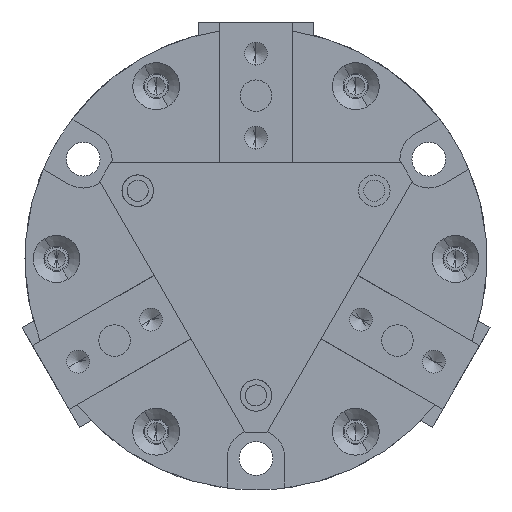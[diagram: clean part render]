
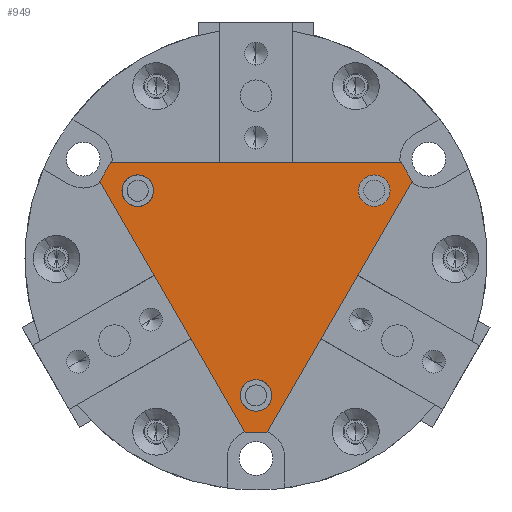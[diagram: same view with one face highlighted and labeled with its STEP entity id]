
A CAD part, front view. The second image highlights one B-rep face of the part: STEP entity #949.
In plain terms, the highlighted planar face has unit normal (0, -1, 0).
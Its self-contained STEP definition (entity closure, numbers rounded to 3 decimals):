
#198 = CARTESIAN_POINT ( 'NONE',  ( -1.643, 0., -26.314 ) ) ;
#441 = ORIENTED_EDGE ( 'NONE', *, *, #3750, .T. ) ;
#483 = CARTESIAN_POINT ( 'NONE',  ( 21.968, 0., 14.58 ) ) ;
#485 = LINE ( 'NONE', #2146, #2170 ) ;
#535 = LINE ( 'NONE', #5185, #5176 ) ;
#671 = LINE ( 'NONE', #198, #7201 ) ;
#737 = CARTESIAN_POINT ( 'NONE',  ( -17.873, 0., 12.706 ) ) ;
#745 = VERTEX_POINT ( 'NONE', #6564 ) ;
#825 = EDGE_CURVE ( 'NONE', #4396, #6357, #5057, .T. ) ;
#849 = DIRECTION ( 'NONE',  ( 0., 1., 0. ) ) ;
#902 = ORIENTED_EDGE ( 'NONE', *, *, #1172, .T. ) ;
#949 = ADVANCED_FACE ( 'NONE', ( #1309, #7619, #7431, #4063 ), #4278, .T. ) ;
#964 = CARTESIAN_POINT ( 'NONE',  ( 0., 0., -20.637 ) ) ;
#1020 = CARTESIAN_POINT ( 'NONE',  ( 1.643, 0., -26.314 ) ) ;
#1107 = DIRECTION ( 'NONE',  ( 0., 1., 0. ) ) ;
#1130 = VERTEX_POINT ( 'NONE', #2877 ) ;
#1172 = EDGE_CURVE ( 'NONE', #1130, #1326, #1211, .T. ) ;
#1189 = DIRECTION ( 'NONE',  ( -0.5, 0., 0.866 ) ) ;
#1211 = CIRCLE ( 'NONE', #7683, 2.388 ) ;
#1309 = FACE_BOUND ( 'NONE', #6924, .T. ) ;
#1326 = VERTEX_POINT ( 'NONE', #8132 ) ;
#1452 = ORIENTED_EDGE ( 'NONE', *, *, #5219, .F. ) ;
#1468 = AXIS2_PLACEMENT_3D ( 'NONE', #4879, #1107, #5514 ) ;
#1528 = CARTESIAN_POINT ( 'NONE',  ( -21.968, 0., 14.58 ) ) ;
#1598 = DIRECTION ( 'NONE',  ( 0., 0., 1. ) ) ;
#1718 = CARTESIAN_POINT ( 'NONE',  ( 23.61, 0., 11.735 ) ) ;
#1778 = DIRECTION ( 'NONE',  ( 0., 0., -1. ) ) ;
#2031 = VECTOR ( 'NONE', #5303, 1000. ) ;
#2047 = DIRECTION ( 'NONE',  ( 0.5, 0., -0.866 ) ) ;
#2057 = VECTOR ( 'NONE', #1189, 1000. ) ;
#2146 = CARTESIAN_POINT ( 'NONE',  ( -23.61, 0., 11.735 ) ) ;
#2170 = VECTOR ( 'NONE', #5915, 1000. ) ;
#2244 = DIRECTION ( 'NONE',  ( 0., 1., 0. ) ) ;
#2255 = LINE ( 'NONE', #3702, #2057 ) ;
#2336 = AXIS2_PLACEMENT_3D ( 'NONE', #3027, #5549, #1778 ) ;
#2345 = DIRECTION ( 'NONE',  ( -0.5, 0., -0.866 ) ) ;
#2476 = ORIENTED_EDGE ( 'NONE', *, *, #4862, .F. ) ;
#2504 = VERTEX_POINT ( 'NONE', #6042 ) ;
#2521 = DIRECTION ( 'NONE',  ( 0., 1., 0. ) ) ;
#2630 = ORIENTED_EDGE ( 'NONE', *, *, #6585, .T. ) ;
#2780 = ORIENTED_EDGE ( 'NONE', *, *, #825, .T. ) ;
#2877 = CARTESIAN_POINT ( 'NONE',  ( 0., 0., -23.025 ) ) ;
#2917 = EDGE_LOOP ( 'NONE', ( #2476, #1452, #4567, #6060, #5116, #3417 ) ) ;
#2935 = CARTESIAN_POINT ( 'NONE',  ( -1.643, 0., -26.314 ) ) ;
#2940 = DIRECTION ( 'NONE',  ( 0., 1., 0. ) ) ;
#3027 = CARTESIAN_POINT ( 'NONE',  ( 0., 0., -29.159 ) ) ;
#3124 = CARTESIAN_POINT ( 'NONE',  ( -17.873, 0., 7.931 ) ) ;
#3269 = EDGE_CURVE ( 'NONE', #745, #4477, #5631, .T. ) ;
#3417 = ORIENTED_EDGE ( 'NONE', *, *, #5258, .F. ) ;
#3702 = CARTESIAN_POINT ( 'NONE',  ( -1.643, 0., -26.314 ) ) ;
#3750 = EDGE_CURVE ( 'NONE', #4477, #745, #4529, .T. ) ;
#3806 = CARTESIAN_POINT ( 'NONE',  ( 17.873, 0., 7.931 ) ) ;
#3863 = CARTESIAN_POINT ( 'NONE',  ( 23.61, 0., 11.735 ) ) ;
#4063 = FACE_OUTER_BOUND ( 'NONE', #2917, .T. ) ;
#4278 = PLANE ( 'NONE',  #2336 ) ;
#4318 = AXIS2_PLACEMENT_3D ( 'NONE', #6297, #2521, #6935 ) ;
#4396 = VERTEX_POINT ( 'NONE', #3124 ) ;
#4477 = VERTEX_POINT ( 'NONE', #3806 ) ;
#4529 = CIRCLE ( 'NONE', #1468, 2.388 ) ;
#4567 = ORIENTED_EDGE ( 'NONE', *, *, #4745, .F. ) ;
#4631 = CARTESIAN_POINT ( 'NONE',  ( -17.873, 0., 10.319 ) ) ;
#4693 = VERTEX_POINT ( 'NONE', #2935 ) ;
#4716 = LINE ( 'NONE', #1718, #5998 ) ;
#4745 = EDGE_CURVE ( 'NONE', #5058, #6659, #4716, .T. ) ;
#4796 = CARTESIAN_POINT ( 'NONE',  ( -23.61, 0., 11.735 ) ) ;
#4831 = AXIS2_PLACEMENT_3D ( 'NONE', #964, #5375, #1598 ) ;
#4862 = EDGE_CURVE ( 'NONE', #4693, #6655, #2255, .T. ) ;
#4879 = CARTESIAN_POINT ( 'NONE',  ( 17.873, 0., 10.319 ) ) ;
#5057 = CIRCLE ( 'NONE', #6300, 2.388 ) ;
#5058 = VERTEX_POINT ( 'NONE', #3863 ) ;
#5116 = ORIENTED_EDGE ( 'NONE', *, *, #7593, .F. ) ;
#5176 = VECTOR ( 'NONE', #2047, 1000. ) ;
#5185 = CARTESIAN_POINT ( 'NONE',  ( 23.61, 0., 11.735 ) ) ;
#5219 = EDGE_CURVE ( 'NONE', #6659, #4693, #671, .T. ) ;
#5258 = EDGE_CURVE ( 'NONE', #6655, #2504, #485, .T. ) ;
#5270 = DIRECTION ( 'NONE',  ( 0., 0., 1. ) ) ;
#5303 = DIRECTION ( 'NONE',  ( 1., 0., 0. ) ) ;
#5375 = DIRECTION ( 'NONE',  ( 0., 1., 0. ) ) ;
#5397 = CIRCLE ( 'NONE', #4831, 2.388 ) ;
#5492 = CIRCLE ( 'NONE', #6464, 2.388 ) ;
#5514 = DIRECTION ( 'NONE',  ( 0., 0., 1. ) ) ;
#5549 = DIRECTION ( 'NONE',  ( 0., -1., 0. ) ) ;
#5631 = CIRCLE ( 'NONE', #4318, 2.388 ) ;
#5639 = EDGE_LOOP ( 'NONE', ( #6092, #2780 ) ) ;
#5881 = DIRECTION ( 'NONE',  ( -1., 0., 0. ) ) ;
#5915 = DIRECTION ( 'NONE',  ( 0.5, 0., 0.866 ) ) ;
#5998 = VECTOR ( 'NONE', #2345, 1000. ) ;
#6016 = CARTESIAN_POINT ( 'NONE',  ( -17.873, 0., 10.319 ) ) ;
#6042 = CARTESIAN_POINT ( 'NONE',  ( -21.968, 0., 14.58 ) ) ;
#6060 = ORIENTED_EDGE ( 'NONE', *, *, #8069, .F. ) ;
#6092 = ORIENTED_EDGE ( 'NONE', *, *, #7333, .T. ) ;
#6297 = CARTESIAN_POINT ( 'NONE',  ( 17.873, 0., 10.319 ) ) ;
#6300 = AXIS2_PLACEMENT_3D ( 'NONE', #6016, #2244, #6654 ) ;
#6357 = VERTEX_POINT ( 'NONE', #737 ) ;
#6464 = AXIS2_PLACEMENT_3D ( 'NONE', #4631, #849, #5270 ) ;
#6564 = CARTESIAN_POINT ( 'NONE',  ( 17.873, 0., 12.706 ) ) ;
#6585 = EDGE_CURVE ( 'NONE', #1326, #1130, #5397, .T. ) ;
#6654 = DIRECTION ( 'NONE',  ( 0., 0., 1. ) ) ;
#6655 = VERTEX_POINT ( 'NONE', #4796 ) ;
#6659 = VERTEX_POINT ( 'NONE', #1020 ) ;
#6714 = CARTESIAN_POINT ( 'NONE',  ( 0., 0., -20.637 ) ) ;
#6877 = LINE ( 'NONE', #1528, #2031 ) ;
#6924 = EDGE_LOOP ( 'NONE', ( #7108, #441 ) ) ;
#6935 = DIRECTION ( 'NONE',  ( 0., 0., 1. ) ) ;
#7080 = VERTEX_POINT ( 'NONE', #483 ) ;
#7108 = ORIENTED_EDGE ( 'NONE', *, *, #3269, .T. ) ;
#7201 = VECTOR ( 'NONE', #5881, 1000. ) ;
#7333 = EDGE_CURVE ( 'NONE', #6357, #4396, #5492, .T. ) ;
#7348 = DIRECTION ( 'NONE',  ( 0., 0., 1. ) ) ;
#7431 = FACE_BOUND ( 'NONE', #8163, .T. ) ;
#7593 = EDGE_CURVE ( 'NONE', #2504, #7080, #6877, .T. ) ;
#7619 = FACE_BOUND ( 'NONE', #5639, .T. ) ;
#7683 = AXIS2_PLACEMENT_3D ( 'NONE', #6714, #2940, #7348 ) ;
#8069 = EDGE_CURVE ( 'NONE', #7080, #5058, #535, .T. ) ;
#8132 = CARTESIAN_POINT ( 'NONE',  ( 0., 0., -18.25 ) ) ;
#8163 = EDGE_LOOP ( 'NONE', ( #2630, #902 ) ) ;
